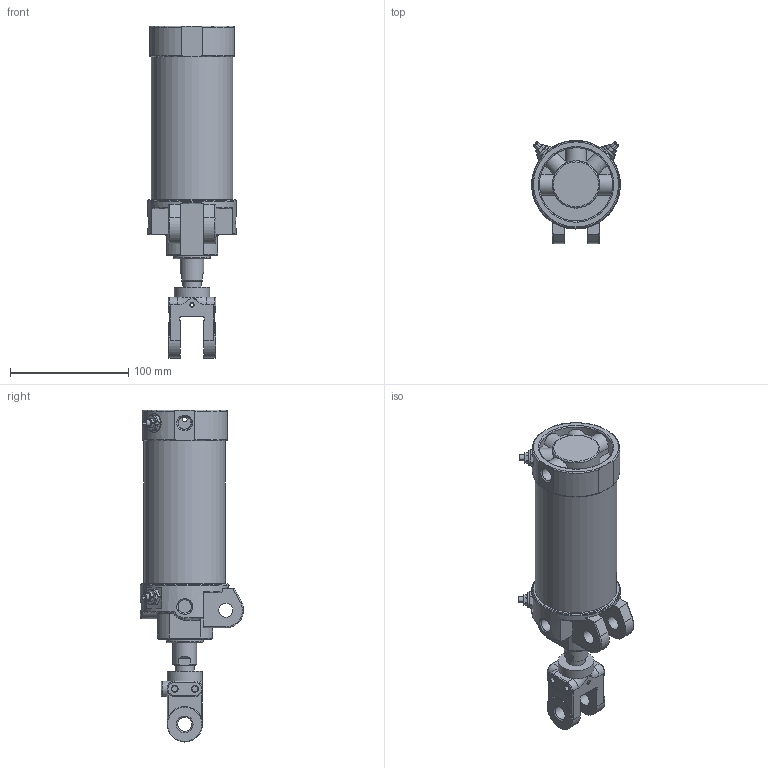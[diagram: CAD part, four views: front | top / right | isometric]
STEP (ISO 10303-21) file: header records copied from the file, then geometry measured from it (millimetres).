
FILE_DESCRIPTION((''),'2;1');
FILE_NAME('I:\3D電子目錄\氣缸\DCK\DCK\DCK-1B-63x74-Y.stp','2008-02-26T15:41:43',('Administrator'),(''),'Autodesk Inventor 11','Autodesk Inventor 11','');
FILE_SCHEMA(('AUTOMOTIVE_DESIGN { 1 0 10303 214 1 1 1 1 }'));
Length unit declared in the file: millimetre
Products named in the file (6): DCK-1B-63-Y; 緩衝針; 緩衝針-1; 緩衝針-201; 緩衝針-3
Assembly tree (8 placements, depth 3):
  DCK-1B-63-Y
    DCK-1B-63-Y
    緩衝針  x4
      緩衝針-1
      緩衝針-201
      緩衝針-3
Bounding box: 75 x 87.29 x 281 mm (x, y, z)
Volume: 367994.3 mm3; surface area: 135870.7 mm2
Topology: 16 solids, 16 shells, 672 faces, 1499 edges, 931 vertices
Faces by surface type: plane 246, cylinder 189, cone 143, torus 48, bspline 46
Full cylindrical faces by diameter (mm): 2 x1, 3 x2, 3.8 x2, 4 x6, 4.6 x4, 4.917 x2, 5 x8, 5.1 x4, 5.2 x12, 5.5 x4, 7 x1, 7.25 x1, 7.9 x4, 8 x2, 11.3 x3, 12 x4, 12.8 x4, 16 x3, 20 x1, 21 x1, 22 x2, 23 x1, 24.7 x1, 26 x1, 27 x1, 28 x1, 29 x1, 30 x3, 31 x1, 33 x1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
Entity records: 15178 total; most frequent: CARTESIAN_POINT 6245, DIRECTION 1812, ORIENTED_EDGE 1648, EDGE_CURVE 824, AXIS2_PLACEMENT_3D 775, EDGE_LOOP 630, VERTEX_POINT 590, FACE_OUTER_BOUND 423
